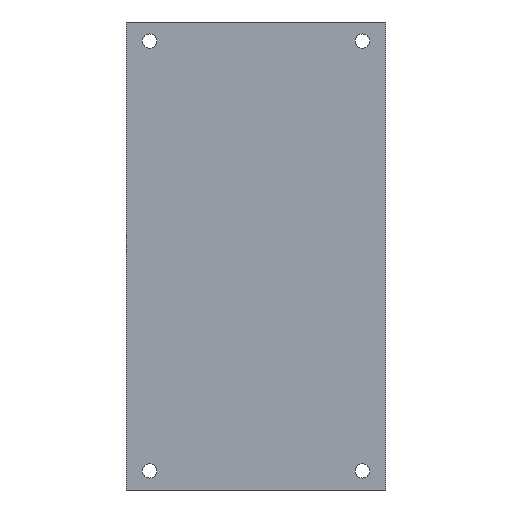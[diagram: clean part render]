
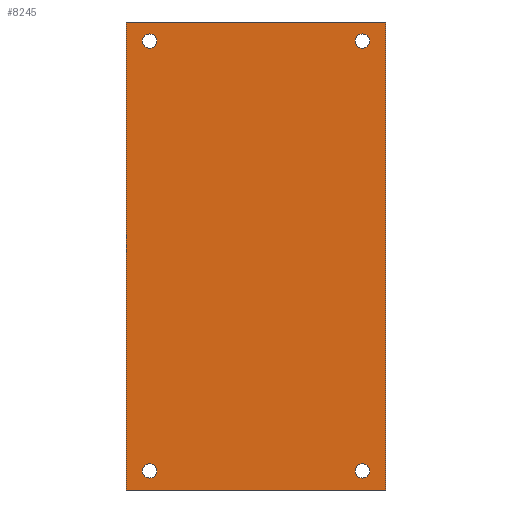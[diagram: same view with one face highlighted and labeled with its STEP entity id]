
A CAD part, front view. The second image highlights one B-rep face of the part: STEP entity #8245.
In plain terms, the highlighted planar face has unit normal (0, -1, 0).
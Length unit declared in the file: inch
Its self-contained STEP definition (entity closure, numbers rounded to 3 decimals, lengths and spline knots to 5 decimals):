
#263=FACE_BOUND('',#1787,.T.);
#264=FACE_BOUND('',#1788,.T.);
#265=FACE_BOUND('',#1789,.T.);
#266=FACE_BOUND('',#1790,.T.);
#590=CIRCLE('',#9101,0.06693);
#591=CIRCLE('',#9103,0.06693);
#592=CIRCLE('',#9105,0.06693);
#593=CIRCLE('',#9107,0.06693);
#1210=FACE_OUTER_BOUND('',#1786,.T.);
#1786=EDGE_LOOP('',(#7080,#7081,#7082,#7083));
#1787=EDGE_LOOP('',(#7084));
#1788=EDGE_LOOP('',(#7085));
#1789=EDGE_LOOP('',(#7086));
#1790=EDGE_LOOP('',(#7087));
#2464=LINE('',#13917,#3144);
#2469=LINE('',#13927,#3149);
#2474=LINE('',#13948,#3154);
#2475=LINE('',#13950,#3155);
#3144=VECTOR('',#11463,0.3937);
#3149=VECTOR('',#11470,0.3937);
#3154=VECTOR('',#11497,0.3937);
#3155=VECTOR('',#11500,0.3937);
#3834=VERTEX_POINT('',#13914);
#3835=VERTEX_POINT('',#13916);
#3838=VERTEX_POINT('',#13924);
#3839=VERTEX_POINT('',#13926);
#3841=VERTEX_POINT('',#13932);
#3842=VERTEX_POINT('',#13935);
#3843=VERTEX_POINT('',#13938);
#3844=VERTEX_POINT('',#13941);
#4912=EDGE_CURVE('',#3835,#3834,#2464,.T.);
#4917=EDGE_CURVE('',#3839,#3838,#2469,.T.);
#4920=EDGE_CURVE('',#3841,#3841,#590,.T.);
#4921=EDGE_CURVE('',#3842,#3842,#591,.T.);
#4922=EDGE_CURVE('',#3843,#3843,#592,.T.);
#4923=EDGE_CURVE('',#3844,#3844,#593,.T.);
#4926=EDGE_CURVE('',#3834,#3839,#2474,.T.);
#4927=EDGE_CURVE('',#3838,#3835,#2475,.T.);
#7080=ORIENTED_EDGE('',*,*,#4917,.T.);
#7081=ORIENTED_EDGE('',*,*,#4927,.T.);
#7082=ORIENTED_EDGE('',*,*,#4912,.T.);
#7083=ORIENTED_EDGE('',*,*,#4926,.T.);
#7084=ORIENTED_EDGE('',*,*,#4920,.T.);
#7085=ORIENTED_EDGE('',*,*,#4921,.T.);
#7086=ORIENTED_EDGE('',*,*,#4922,.T.);
#7087=ORIENTED_EDGE('',*,*,#4923,.T.);
#7346=PLANE('',#9111);
#8245=ADVANCED_FACE('',(#1210,#263,#264,#265,#266),#7346,.F.);
#9101=AXIS2_PLACEMENT_3D('',#13933,#11475,#11476);
#9103=AXIS2_PLACEMENT_3D('',#13936,#11479,#11480);
#9105=AXIS2_PLACEMENT_3D('',#13939,#11483,#11484);
#9107=AXIS2_PLACEMENT_3D('',#13942,#11487,#11488);
#9111=AXIS2_PLACEMENT_3D('',#13949,#11498,#11499);
#11463=DIRECTION('',(1.,0.,0.));
#11470=DIRECTION('',(-1.,0.,0.));
#11475=DIRECTION('center_axis',(0.,1.,0.));
#11476=DIRECTION('ref_axis',(1.,0.,0.));
#11479=DIRECTION('center_axis',(0.,1.,0.));
#11480=DIRECTION('ref_axis',(1.,0.,0.));
#11483=DIRECTION('center_axis',(0.,1.,0.));
#11484=DIRECTION('ref_axis',(1.,0.,0.));
#11487=DIRECTION('center_axis',(0.,1.,0.));
#11488=DIRECTION('ref_axis',(1.,0.,0.));
#11497=DIRECTION('',(0.,0.,1.));
#11498=DIRECTION('center_axis',(0.,1.,0.));
#11499=DIRECTION('ref_axis',(0.,0.,
1.));
#11500=DIRECTION('',(0.,0.,-1.));
#13914=CARTESIAN_POINT('',(1.02426,-0.19913,-2.12828));
#13916=CARTESIAN_POINT('',(-1.37732,-0.19913,-2.12828));
#13917=CARTESIAN_POINT('',(-1.37732,-0.19913,-2.12828));
#13924=CARTESIAN_POINT('',(-1.37732,-0.19913,2.20243));
#13926=CARTESIAN_POINT('',(1.02426,-0.19913,2.20243));
#13927=CARTESIAN_POINT('',(1.02426,-0.19913,2.20243));
#13932=CARTESIAN_POINT('',(0.74079,-0.19913,-1.95112));
#13933=CARTESIAN_POINT('Origin',(0.80772,-0.19913,-1.95112));
#13935=CARTESIAN_POINT('',(-1.22771,-0.19913,2.02526));
#13936=CARTESIAN_POINT('Origin',(-1.16078,-0.19913,2.02526));
#13938=CARTESIAN_POINT('',(-1.22771,-0.19913,-1.95112));
#13939=CARTESIAN_POINT('Origin',(-1.16078,-0.19913,-1.95112));
#13941=CARTESIAN_POINT('',(0.74079,-0.19913,2.02526));
#13942=CARTESIAN_POINT('Origin',(0.80772,-0.19913,2.02526));
#13948=CARTESIAN_POINT('',(1.02426,-0.19913,-2.12828));
#13949=CARTESIAN_POINT('Origin',(-0.17653,-0.19913,0.03707));
#13950=CARTESIAN_POINT('',(-1.37732,-0.19913,2.20243));
